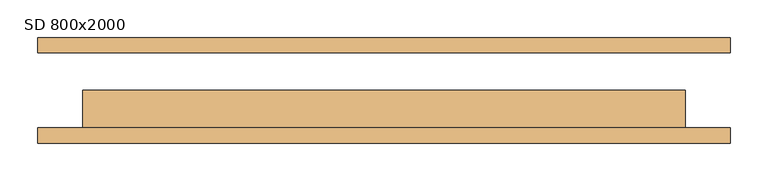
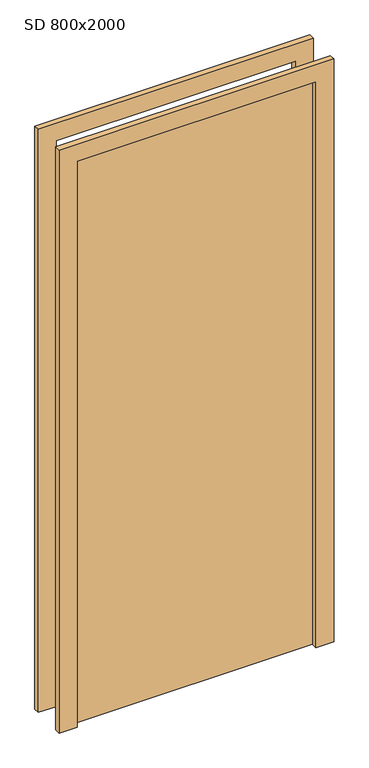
"""IFC4 building model written with IfcOpenShell, lengths in millimetres: door geometry, JednokridlePlne : SD 800x2000."""

from ifc_helpers import new_model, si_unit, frame, origin, origin_with_axes, place, context, project, spatial, polyline, outline, extrude, source, transform, mapped, element, save


def sd_800x2000_6a16926d(model_context):
    return source(origin(), model_context, "Body", "SweptSolid", [
        extrude(outline(polyline([(2060.0, -460.0), (0.0, -460.0), (0.0, -400.0), (2000.0, -400.0), (2000.0, 400.0), (0.0, 400.0), (0.0, 460.0), (2060.0, 460.0), (2060.0, -460.0)])), frame((0.0, -70.0, 0.0), z_axis=(0.0, 1.0, 0.0), x_axis=(0.0, 0.0, 1.0)), (0.0, 0.0, 1.0), 20.0),
        extrude(outline(polyline([(2060.0, 460.0), (2060.0, -460.0), (0.0, -460.0), (0.0, -400.0), (2000.0, -400.0), (2000.0, 400.0), (0.0, 400.0), (0.0, 460.0), (2060.0, 460.0)])), frame((0.0, 50.0, 0.0), z_axis=(0.0, 1.0, 0.0), x_axis=(0.0, 0.0, 1.0)), (0.0, 0.0, 1.0), 20.0),
        extrude(outline(polyline([(400.0, 0.0), (400.0, -50.0), (-400.0, -50.0), (-400.0, 0.0), (400.0, 0.0)])), origin_with_axes(), (0.0, 0.0, 1.0), 2000.0),
    ])


if __name__ == "__main__":
    model = new_model("IFC4")
    model_context = context("Model", 3, world=origin())
    ifc_project = project(units=[si_unit("LENGTHUNIT", "METRE", prefix="MILLI")], contexts=[model_context])
    site = spatial("IfcSite", under=ifc_project)
    building = spatial("IfcBuilding", under=site)
    placement = place(None, origin())
    sd_800x2000_shape = sd_800x2000_6a16926d(model_context)
    element("IfcDoor", 1, ObjectType="JednokridlePlne : SD 800x2000", at=placement, inside=building, context=model_context, shape_type="MappedRepresentation", body=[
        mapped(sd_800x2000_shape, transform((0.0, 0.0, 0.0), x_axis=(1.0, 0.0, 0.0), y_axis=(0.0, 1.0, 0.0), z_axis=(0.0, 0.0, 1.0))),
    ])
    save(model, "model.ifc")
